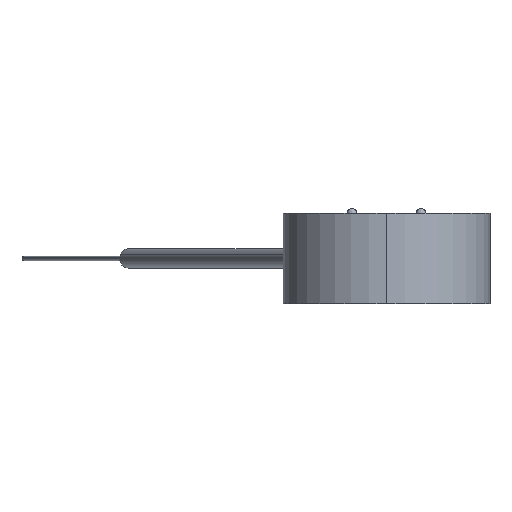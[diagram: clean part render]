
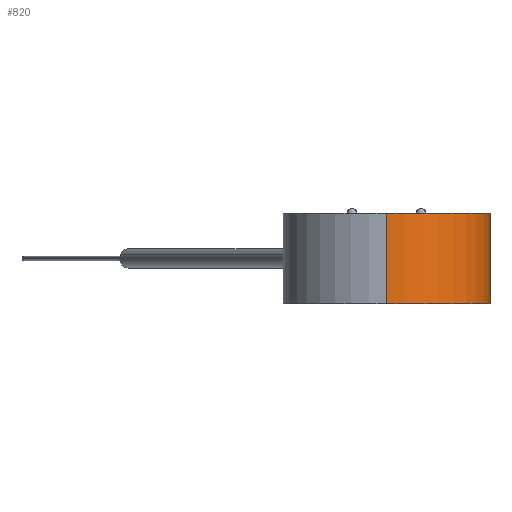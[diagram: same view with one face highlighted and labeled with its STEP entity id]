
A CAD part, front view. The second image highlights one B-rep face of the part: STEP entity #820.
In plain terms, the highlighted cylindrical face has radius 21 mm (diameter 42 mm), a partial arc.
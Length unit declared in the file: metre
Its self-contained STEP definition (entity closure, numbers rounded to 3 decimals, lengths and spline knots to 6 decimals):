
#13 = VERTEX_POINT ( 'NONE', #108 ) ;
#27 = ORIENTED_EDGE ( 'NONE', *, *, #944, .F. ) ;
#30 = FACE_OUTER_BOUND ( 'NONE', #376, .T. ) ;
#108 = CARTESIAN_POINT ( 'NONE',  ( 0., 0.021, 0. ) ) ;
#147 = VERTEX_POINT ( 'NONE', #475 ) ;
#158 = VERTEX_POINT ( 'NONE', #835 ) ;
#167 = DIRECTION ( 'NONE',  ( 0., 0., -1. ) ) ;
#351 = CIRCLE ( 'NONE', #1113, 0.021 ) ;
#367 = DIRECTION ( 'NONE',  ( 0., 1., 0. ) ) ;
#376 = EDGE_LOOP ( 'NONE', ( #1095, #478, #27, #967 ) ) ;
#408 = DIRECTION ( 'NONE',  ( 0., 0., 1. ) ) ;
#436 = EDGE_CURVE ( 'NONE', #147, #1080, #1031, .T. ) ;
#475 = CARTESIAN_POINT ( 'NONE',  ( 0., -0.021, 0.0183 ) ) ;
#478 = ORIENTED_EDGE ( 'NONE', *, *, #436, .T. ) ;
#523 = CARTESIAN_POINT ( 'NONE',  ( 0., 0., 0.0183 ) ) ;
#604 = CYLINDRICAL_SURFACE ( 'NONE', #1022, 0.021 ) ;
#642 = VECTOR ( 'NONE', #818, 1. ) ;
#654 = AXIS2_PLACEMENT_3D ( 'NONE', #1023, #167, #859 ) ;
#678 = EDGE_CURVE ( 'NONE', #158, #13, #856, .T. ) ;
#775 = CARTESIAN_POINT ( 'NONE',  ( 0., 0., 0.0183 ) ) ;
#781 = CARTESIAN_POINT ( 'NONE',  ( 0., -0.021, 0.0183 ) ) ;
#800 = DIRECTION ( 'NONE',  ( 0., 0., -1. ) ) ;
#818 = DIRECTION ( 'NONE',  ( 0., 0., -1. ) ) ;
#820 = ADVANCED_FACE ( 'NONE', ( #30 ), #604, .T. ) ;
#835 = CARTESIAN_POINT ( 'NONE',  ( 0., 0.021, 0.0183 ) ) ;
#856 = LINE ( 'NONE', #888, #642 ) ;
#859 = DIRECTION ( 'NONE',  ( 0., 1., 0. ) ) ;
#888 = CARTESIAN_POINT ( 'NONE',  ( 0., 0.021, 0.0183 ) ) ;
#940 = DIRECTION ( 'NONE',  ( 0., 1., 0. ) ) ;
#944 = EDGE_CURVE ( 'NONE', #13, #1080, #1067, .T. ) ;
#959 = VECTOR ( 'NONE', #1115, 1. ) ;
#963 = EDGE_CURVE ( 'NONE', #147, #158, #351, .T. ) ;
#967 = ORIENTED_EDGE ( 'NONE', *, *, #678, .F. ) ;
#1022 = AXIS2_PLACEMENT_3D ( 'NONE', #523, #800, #367 ) ;
#1023 = CARTESIAN_POINT ( 'NONE',  ( 0., 0., 0. ) ) ;
#1031 = LINE ( 'NONE', #781, #959 ) ;
#1067 = CIRCLE ( 'NONE', #654, 0.021 ) ;
#1080 = VERTEX_POINT ( 'NONE', #1121 ) ;
#1095 = ORIENTED_EDGE ( 'NONE', *, *, #963, .F. ) ;
#1113 = AXIS2_PLACEMENT_3D ( 'NONE', #775, #408, #940 ) ;
#1115 = DIRECTION ( 'NONE',  ( 0., 0., -1. ) ) ;
#1121 = CARTESIAN_POINT ( 'NONE',  ( 0., -0.021, 0. ) ) ;
